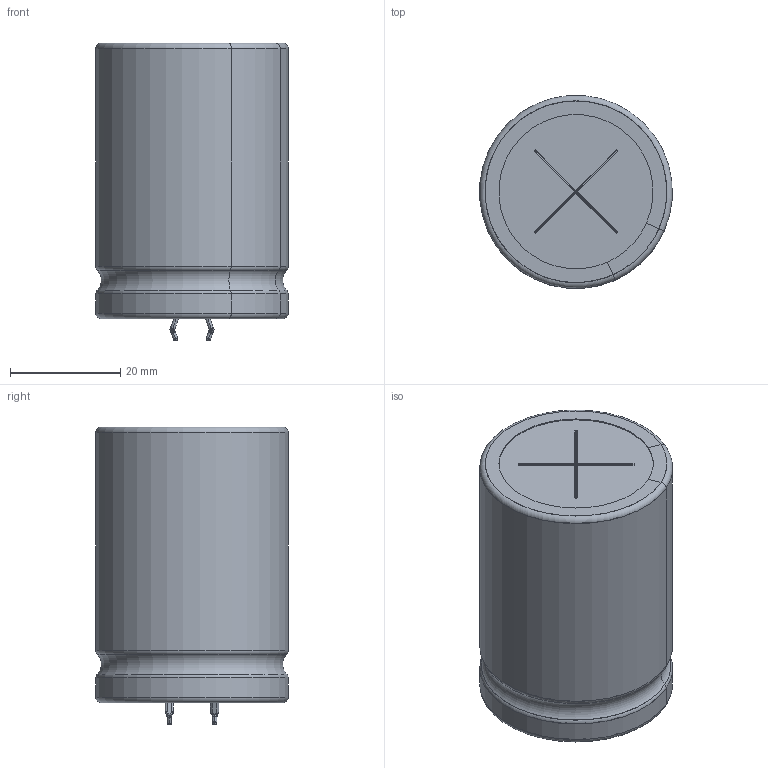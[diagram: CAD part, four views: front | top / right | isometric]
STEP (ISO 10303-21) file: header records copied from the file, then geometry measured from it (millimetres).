
FILE_DESCRIPTION(/* description */ (''),/* implementation_level */ '2;1');
FILE_NAME(/* name */ '35x50_Snap.stp',/* time_stamp */ '2017-09-11T16:43:03+09:00',/* author */ (''),/* organization */ (''),/* preprocessor_version */ 'ST-DEVELOPER v16',/* originating_system */ 'SIEMENS PLM Software NX 11.0',/* authorisation */ '');
FILE_SCHEMA (('AUTOMOTIVE_DESIGN { 1 0 10303 214 3 1 1 1 }'));
Length unit declared in the file: millimetre
Products named in the file (1): 35x50_Snap_0
Bounding box: 34.9 x 34.9 x 54.02 mm (x, y, z)
Volume: 47509.8 mm3; surface area: 19624.3 mm2
Topology: 5 solids, 5 shells, 208 faces, 523 edges, 310 vertices
Faces by surface type: cylinder 76, plane 75, torus 25, sphere 20, bspline 12
Full cylindrical faces by diameter (mm): 4 x2, 34.6 x2
Entity records: 6775 total; most frequent: CARTESIAN_POINT 1265, DIRECTION 1128, ORIENTED_EDGE 988, EDGE_CURVE 494, AXIS2_PLACEMENT_3D 437, VERTEX_POINT 310, LINE 254, VECTOR 254
